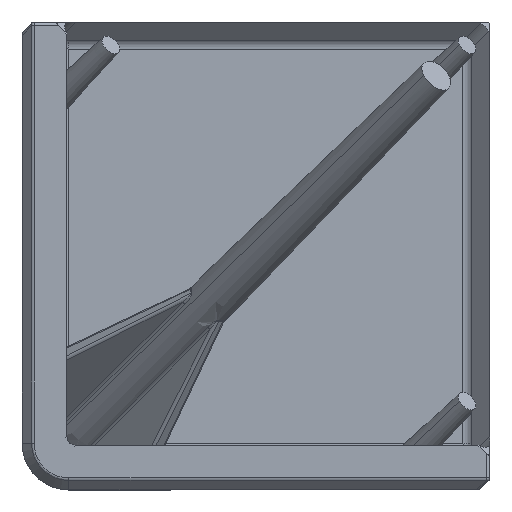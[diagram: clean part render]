
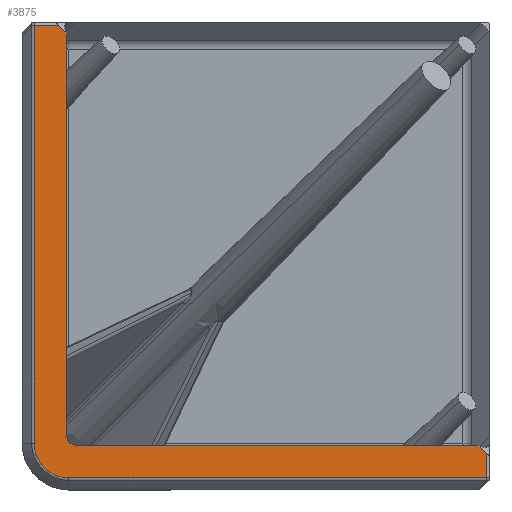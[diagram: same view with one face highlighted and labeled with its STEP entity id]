
A CAD part, left-side view. The second image highlights one B-rep face of the part: STEP entity #3875.
In plain terms, the highlighted planar face has unit normal (-1, 0, 0).
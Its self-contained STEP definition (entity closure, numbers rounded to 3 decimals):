
#54 = VERTEX_POINT ( 'NONE', #1439 ) ;
#142 = CARTESIAN_POINT ( 'NONE',  ( 0.1, 38.969, -36. ) ) ;
#184 = CARTESIAN_POINT ( 'NONE',  ( 0.1, 36., -38.969 ) ) ;
#315 = LINE ( 'NONE', #1894, #6713 ) ;
#334 = VECTOR ( 'NONE', #2410, 1000. ) ;
#430 = EDGE_CURVE ( 'NONE', #1393, #4939, #1621, .T. ) ;
#435 = EDGE_CURVE ( 'NONE', #4187, #6386, #4480, .T. ) ;
#742 = VERTEX_POINT ( 'NONE', #5499 ) ;
#757 = LINE ( 'NONE', #1475, #1991 ) ;
#764 = EDGE_CURVE ( 'NONE', #54, #742, #1854, .T. ) ;
#771 = CARTESIAN_POINT ( 'NONE',  ( 0.1, 35.901, -36.165 ) ) ;
#1026 = EDGE_CURVE ( 'NONE', #6246, #4939, #6824, .T. ) ;
#1128 = DIRECTION ( 'NONE',  ( 0., 0., -1. ) ) ;
#1259 = CARTESIAN_POINT ( 'NONE',  ( 0.1, 35.446, -36.165 ) ) ;
#1284 = CARTESIAN_POINT ( 'NONE',  ( 0.1, 0., 0. ) ) ;
#1312 = CARTESIAN_POINT ( 'NONE',  ( 0.1, 38.969, 0. ) ) ;
#1393 = VERTEX_POINT ( 'NONE', #4496 ) ;
#1439 = CARTESIAN_POINT ( 'NONE',  ( 0.1, 0.4, -38.969 ) ) ;
#1475 = CARTESIAN_POINT ( 'NONE',  ( 0.1, 1.137, -36.165 ) ) ;
#1621 =( BOUNDED_CURVE ( )  B_SPLINE_CURVE ( 3, ( #1259, #771, #2416, #6929 ),
 .UNSPECIFIED., .F., .F. ) 
 B_SPLINE_CURVE_WITH_KNOTS ( ( 4, 4 ),
 ( 5.75, 6.817 ),
 .UNSPECIFIED. ) 
 CURVE ( )  GEOMETRIC_REPRESENTATION_ITEM ( )  RATIONAL_B_SPLINE_CURVE ( ( 1., 0.907, 0.907, 1. ) ) 
 REPRESENTATION_ITEM ( '' )  );
#1675 = ORIENTED_EDGE ( 'NONE', *, *, #6819, .F. ) ;
#1824 = CARTESIAN_POINT ( 'NONE',  ( 0.1, 0., -0.4 ) ) ;
#1836 = VECTOR ( 'NONE', #3276, 1000. ) ;
#1854 = LINE ( 'NONE', #5284, #334 ) ;
#1894 = CARTESIAN_POINT ( 'NONE',  ( 0.1, 0., -36.165 ) ) ;
#1952 = CARTESIAN_POINT ( 'NONE',  ( 0.1, 36.165, -1.137 ) ) ;
#1991 = VECTOR ( 'NONE', #4362, 1000. ) ;
#2110 = VERTEX_POINT ( 'NONE', #3362 ) ;
#2280 = ORIENTED_EDGE ( 'NONE', *, *, #4868, .F. ) ;
#2410 = DIRECTION ( 'NONE',  ( 0., 1., 0. ) ) ;
#2415 = CARTESIAN_POINT ( 'NONE',  ( 0.1, 38.969, -37.739 ) ) ;
#2416 = CARTESIAN_POINT ( 'NONE',  ( 0.1, 36.165, -35.901 ) ) ;
#2419 = DIRECTION ( 'NONE',  ( 0., 0., -1. ) ) ;
#2578 =( BOUNDED_CURVE ( )  B_SPLINE_CURVE ( 3, ( #184, #4156, #2415, #4623 ),
 .UNSPECIFIED., .F., .F. ) 
 B_SPLINE_CURVE_WITH_KNOTS ( ( 4, 4 ),
 ( 0., 1. ),
 .UNSPECIFIED. ) 
 CURVE ( )  GEOMETRIC_REPRESENTATION_ITEM ( )  RATIONAL_B_SPLINE_CURVE ( ( 1., 0.805, 0.805, 1. ) ) 
 REPRESENTATION_ITEM ( '' )  );
#2728 = EDGE_CURVE ( 'NONE', #2110, #6957, #757, .T. ) ;
#2838 = CARTESIAN_POINT ( 'NONE',  ( 0.1, 0.4, -36.902 ) ) ;
#3053 = ORIENTED_EDGE ( 'NONE', *, *, #764, .F. ) ;
#3127 = EDGE_LOOP ( 'NONE', ( #1675, #5584, #5196, #3219, #5008, #6259, #3498, #4036, #2280, #3053 ) ) ;
#3219 = ORIENTED_EDGE ( 'NONE', *, *, #430, .T. ) ;
#3276 = DIRECTION ( 'NONE',  ( 0., 0., -1. ) ) ;
#3362 = CARTESIAN_POINT ( 'NONE',  ( 0.1, 1.137, -36.165 ) ) ;
#3385 = AXIS2_PLACEMENT_3D ( 'NONE', #1284, #5815, #2419 ) ;
#3498 = ORIENTED_EDGE ( 'NONE', *, *, #5731, .F. ) ;
#3568 = VECTOR ( 'NONE', #3598, 1000. ) ;
#3598 = DIRECTION ( 'NONE',  ( 0., 0., 1. ) ) ;
#3614 = VECTOR ( 'NONE', #6420, 1000. ) ;
#3765 = CARTESIAN_POINT ( 'NONE',  ( 0.1, 36.902, -0.4 ) ) ;
#3875 = ADVANCED_FACE ( 'NONE', ( #4525 ), #4569, .F. ) ;
#3950 = CARTESIAN_POINT ( 'NONE',  ( 0.1, 36.165, 0. ) ) ;
#4036 = ORIENTED_EDGE ( 'NONE', *, *, #435, .F. ) ;
#4156 = CARTESIAN_POINT ( 'NONE',  ( 0.1, 37.739, -38.969 ) ) ;
#4187 = VERTEX_POINT ( 'NONE', #142 ) ;
#4362 = DIRECTION ( 'NONE',  ( 0., -0.707, -0.707 ) ) ;
#4435 = LINE ( 'NONE', #1824, #3614 ) ;
#4480 = LINE ( 'NONE', #1312, #3568 ) ;
#4496 = CARTESIAN_POINT ( 'NONE',  ( 0.1, 35.446, -36.165 ) ) ;
#4525 = FACE_OUTER_BOUND ( 'NONE', #3127, .T. ) ;
#4545 = VECTOR ( 'NONE', #4935, 1000. ) ;
#4569 = PLANE ( 'NONE',  #3385 ) ;
#4623 = CARTESIAN_POINT ( 'NONE',  ( 0.1, 38.969, -36. ) ) ;
#4868 = EDGE_CURVE ( 'NONE', #742, #4187, #2578, .T. ) ;
#4935 = DIRECTION ( 'NONE',  ( 0., -0.707, -0.707 ) ) ;
#4939 = VERTEX_POINT ( 'NONE', #7001 ) ;
#5008 = ORIENTED_EDGE ( 'NONE', *, *, #1026, .F. ) ;
#5049 = LINE ( 'NONE', #6590, #1836 ) ;
#5196 = ORIENTED_EDGE ( 'NONE', *, *, #7089, .F. ) ;
#5208 = VERTEX_POINT ( 'NONE', #3765 ) ;
#5284 = CARTESIAN_POINT ( 'NONE',  ( 0.1, 0., -38.969 ) ) ;
#5499 = CARTESIAN_POINT ( 'NONE',  ( 0.1, 36., -38.969 ) ) ;
#5584 = ORIENTED_EDGE ( 'NONE', *, *, #2728, .F. ) ;
#5588 = CARTESIAN_POINT ( 'NONE',  ( 0.1, 38.969, -0.4 ) ) ;
#5731 = EDGE_CURVE ( 'NONE', #6386, #5208, #4435, .T. ) ;
#5815 = DIRECTION ( 'NONE',  ( 1., 0., 0. ) ) ;
#5845 = DIRECTION ( 'NONE',  ( 0., -1., 0. ) ) ;
#6246 = VERTEX_POINT ( 'NONE', #1952 ) ;
#6259 = ORIENTED_EDGE ( 'NONE', *, *, #7231, .F. ) ;
#6386 = VERTEX_POINT ( 'NONE', #5588 ) ;
#6420 = DIRECTION ( 'NONE',  ( 0., -1., 0. ) ) ;
#6447 = VECTOR ( 'NONE', #1128, 1000. ) ;
#6581 = CARTESIAN_POINT ( 'NONE',  ( 0.1, 36.902, -0.4 ) ) ;
#6590 = CARTESIAN_POINT ( 'NONE',  ( 0.1, 0.4, 0. ) ) ;
#6713 = VECTOR ( 'NONE', #5845, 1000. ) ;
#6819 = EDGE_CURVE ( 'NONE', #6957, #54, #5049, .T. ) ;
#6824 = LINE ( 'NONE', #3950, #6447 ) ;
#6929 = CARTESIAN_POINT ( 'NONE',  ( 0.1, 36.165, -35.446 ) ) ;
#6957 = VERTEX_POINT ( 'NONE', #2838 ) ;
#7001 = CARTESIAN_POINT ( 'NONE',  ( 0.1, 36.165, -35.446 ) ) ;
#7089 = EDGE_CURVE ( 'NONE', #1393, #2110, #315, .T. ) ;
#7165 = LINE ( 'NONE', #6581, #4545 ) ;
#7231 = EDGE_CURVE ( 'NONE', #5208, #6246, #7165, .T. ) ;
